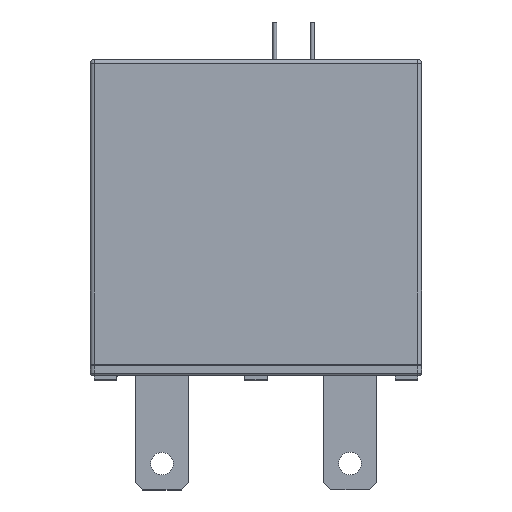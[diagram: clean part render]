
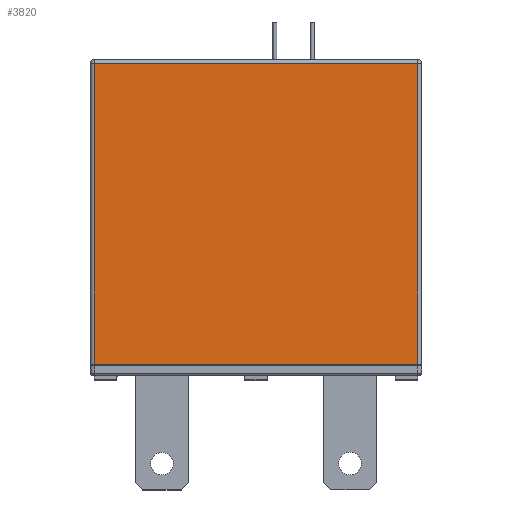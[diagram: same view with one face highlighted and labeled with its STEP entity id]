
A CAD part, top view. The second image highlights one B-rep face of the part: STEP entity #3820.
In plain terms, the highlighted planar face has unit normal (0, 0, 1).
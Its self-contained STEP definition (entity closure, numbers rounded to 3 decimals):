
#272=DIRECTION('',(1.,0.,0.));
#273=VECTOR('',#272,43.);
#274=CARTESIAN_POINT('',(-21.5,1.5,6.3));
#275=LINE('',#274,#273);
#524=DIRECTION('',(0.,1.,0.));
#525=VECTOR('',#524,40.);
#526=CARTESIAN_POINT('',(21.5,1.5,6.3));
#527=LINE('',#526,#525);
#576=DIRECTION('',(1.,0.,0.));
#577=VECTOR('',#576,43.);
#578=CARTESIAN_POINT('',(-21.5,41.5,6.3));
#579=LINE('',#578,#577);
#583=DIRECTION('',(0.,1.,0.));
#584=VECTOR('',#583,40.);
#585=CARTESIAN_POINT('',(-21.5,1.5,6.3));
#586=LINE('',#585,#584);
#3053=CARTESIAN_POINT('',(-21.5,1.5,6.3));
#3054=VERTEX_POINT('',#3053);
#3055=CARTESIAN_POINT('',(21.5,1.5,6.3));
#3056=VERTEX_POINT('',#3055);
#3206=CARTESIAN_POINT('',(-21.5,41.5,6.3));
#3208=VERTEX_POINT('',#3206);
#3213=CARTESIAN_POINT('',(21.5,41.5,6.3));
#3214=VERTEX_POINT('',#3213);
#3808=CARTESIAN_POINT('',(-21.5,1.5,6.3));
#3809=DIRECTION('',(0.,0.,1.));
#3810=DIRECTION('',(1.,0.,0.));
#3811=AXIS2_PLACEMENT_3D('',#3808,#3809,#3810);
#3812=PLANE('',#3811);
#3813=ORIENTED_EDGE('',*,*,#3723,.T.);
#3814=ORIENTED_EDGE('',*,*,#3752,.F.);
#3815=ORIENTED_EDGE('',*,*,#3502,.F.);
#3817=ORIENTED_EDGE('',*,*,#3816,.T.);
#3818=EDGE_LOOP('',(#3813,#3814,#3815,#3817));
#3819=FACE_OUTER_BOUND('',#3818,.F.);
#3820=ADVANCED_FACE('',(#3819),#3812,.T.);
#3502=EDGE_CURVE('',#3054,#3056,#275,.T.);
#3723=EDGE_CURVE('',#3208,#3214,#579,.T.);
#3752=EDGE_CURVE('',#3056,#3214,#527,.T.);
#3816=EDGE_CURVE('',#3054,#3208,#586,.T.);
